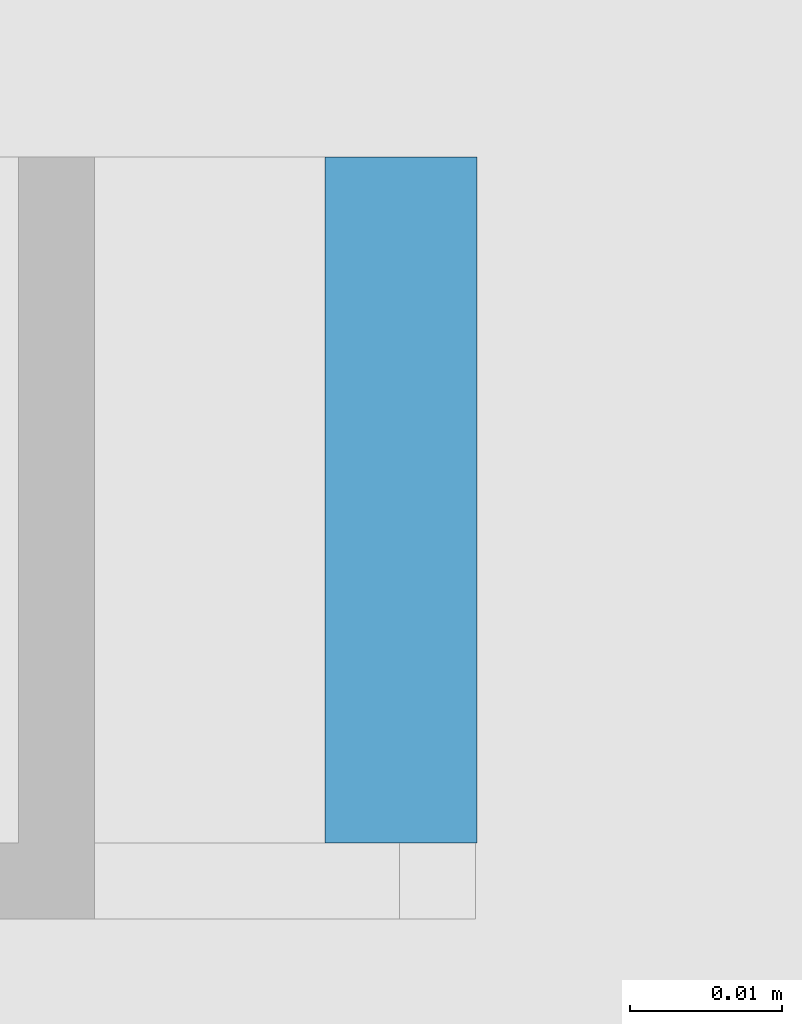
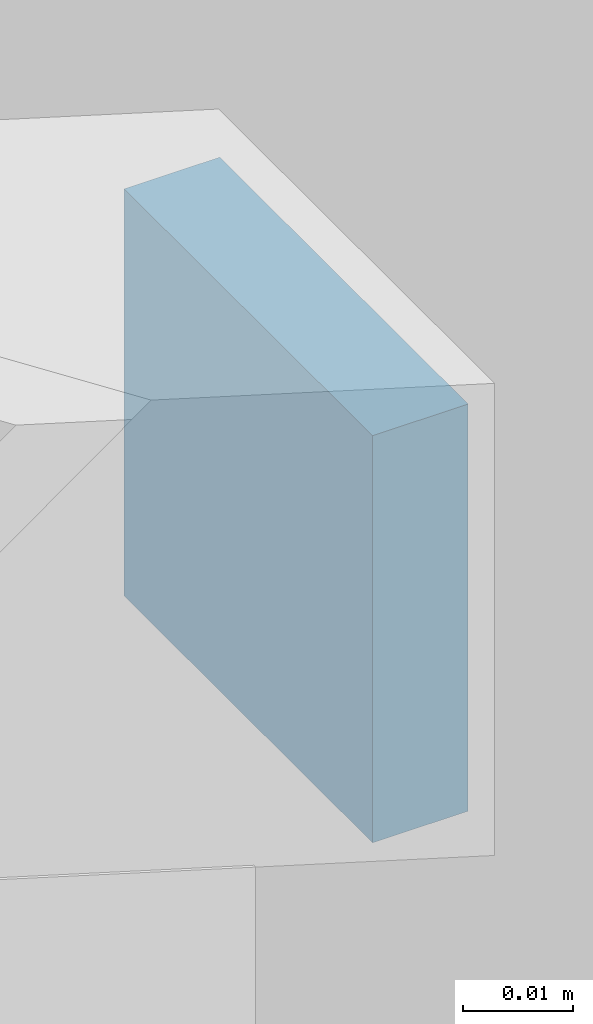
# One storey, part 65 of 65: 1 beam.
"""IFC2X3 building model written with IfcOpenShell, lengths in millimetres."""

import ifcopenshell
import ifcopenshell.guid

model = None  # the IFC model being written
_history = None  # IfcOwnerHistory: only IFC2X3 demands one
_inside = {}  # id of a spatial element -> (the spatial element, [elements in it])
_under = {}  # id of a project, library or spatial element -> (it, [spatial elements below it])
_declared = {}  # id of a project -> (the project, [libraries it declares])
_typed = {}  # id of a type object -> (the type object, [elements of that type])
_made_of = {}  # id of a material, layer set ... -> (it, [elements and type objects made of it])


def new_model(schema):
    """Start an empty IFC model of exactly this schema.

    Asked for "IFC4X3", IfcOpenShell would pick the latest addendum, in which some entities
    have other attributes; the version numbers below select the first issue.
    IFC2X3 requires an IfcOwnerHistory on every rooted entity: one is made here for all.
    """
    global model, _history
    if schema == "IFC4X3":
        model = ifcopenshell.file(schema_version=(4, 3, 0, 0))
    else:
        model = ifcopenshell.file(schema=schema)
    _inside.clear()
    _under.clear()
    _declared.clear()
    _typed.clear()
    _made_of.clear()
    _history = None
    if model.schema == "IFC2X3":
        org = make("IfcOrganization", Name="unknown")
        user = make(
            "IfcPersonAndOrganization",
            ThePerson=make("IfcPerson", FamilyName="unknown"),
            TheOrganization=org,
        )
        app = make(
            "IfcApplication",
            ApplicationDeveloper=org,
            Version="unknown",
            ApplicationFullName="unknown",
            ApplicationIdentifier="unknown",
        )
        _history = make(
            "IfcOwnerHistory",
            OwningUser=user,
            OwningApplication=app,
            ChangeAction="ADDED",
            CreationDate=0,
        )
    return model


def make(cls, **values):
    """One entity of the class cls with the attributes given. An attribute that is None is left unset."""
    return model.create_entity(
        cls, **{name: value for name, value in values.items() if value is not None}
    )


def rooted(cls, **values):
    """An entity with a GlobalId (a new one), such as an element, a storey or a relation."""
    return make(cls, GlobalId=ifcopenshell.guid.new(), OwnerHistory=_history, **values)


def si_unit(unit_type, name, prefix=None):
    """IfcSIUnit, for example si_unit("LENGTHUNIT", "METRE", prefix="MILLI")."""
    return make("IfcSIUnit", UnitType=unit_type, Prefix=prefix, Name=name)


def assignment(units):
    """IfcUnitAssignment: the units of a project."""
    return None if units is None else make("IfcUnitAssignment", Units=units)


def point(xyz):
    """IfcCartesianPoint."""
    return None if xyz is None else make("IfcCartesianPoint", Coordinates=xyz)


def direction(xyz):
    """IfcDirection."""
    return None if xyz is None else make("IfcDirection", DirectionRatios=xyz)


def frame(location, z_axis=None, x_axis=None):
    """IfcAxis2Placement3D, a coordinate frame: its origin and axes. An axis left out is left unset."""
    return make(
        "IfcAxis2Placement3D",
        Location=point(location),
        Axis=direction(z_axis),
        RefDirection=direction(x_axis),
    )


def origin_with_axes():
    """The frame at (0, 0, 0) with the z axis (0, 0, 1) and the x axis (1, 0, 0) written out."""
    return frame((0.0, 0.0, 0.0), z_axis=(0.0, 0.0, 1.0), x_axis=(1.0, 0.0, 0.0))


def place(relative_to, where):
    """IfcLocalPlacement: puts the frame where relative to a parent placement (None: the world)."""
    return make(
        "IfcLocalPlacement", PlacementRelTo=relative_to, RelativePlacement=where
    )


def context(
    kind, dimensions, precision=None, world=None, true_north=None, identifier=None
):
    """IfcGeometricRepresentationContext, for example the 3D "Model" context."""
    return make(
        "IfcGeometricRepresentationContext",
        ContextIdentifier=identifier,
        ContextType=kind,
        CoordinateSpaceDimension=dimensions,
        Precision=precision,
        WorldCoordinateSystem=world,
        TrueNorth=true_north,
    )


def subcontext(parent, identifier, kind, view, scale=None):
    """IfcGeometricRepresentationSubContext, for example "Body" below "Model"."""
    return make(
        "IfcGeometricRepresentationSubContext",
        ContextIdentifier=identifier,
        ContextType=kind,
        ParentContext=parent,
        TargetScale=scale,
        TargetView=view,
    )


def project(units=None, contexts=None):
    """IfcProject with its units and contexts."""
    return rooted(
        "IfcProject",
        Name="project",
        RepresentationContexts=contexts,
        UnitsInContext=assignment(units),
    )


def spatial(cls, under=None, at=None, **own):
    """A site, building, storey or space (cls), placed at a placement, below another one or the project."""
    s = rooted(cls, ObjectPlacement=at, **own)
    if under is not None:
        _under.setdefault(under.id(), (under, []))[1].append(s)
    return s


def faces_of(points, faces, orient=None, outer=None):
    """IfcFace entities. A face is a list of loops; a loop is a list of indices into points, from 0.

    orient and outer hold one flag for each loop. By default every Orientation is true, the
    first loop of a face is its IfcFaceOuterBound and the others are IfcFaceBound.
    """
    made = []
    for i, loops in enumerate(faces):
        bounds = []
        for j, loop in enumerate(loops):
            is_outer = j == 0 if outer is None else outer[i][j]
            bounds.append(
                make(
                    "IfcFaceOuterBound" if is_outer else "IfcFaceBound",
                    Bound=make("IfcPolyLoop", Polygon=[points[k] for k in loop]),
                    Orientation=True if orient is None else orient[i][j],
                )
            )
        made.append(make("IfcFace", Bounds=bounds))
    return made


def faceted_brep(points, faces, orient=None, outer=None, voids=None):
    """IfcFacetedBrep: a solid bounded by flat faces; with voids (closed shells), ...WithVoids."""
    shared = [point(p) for p in points]
    hull = make("IfcClosedShell", CfsFaces=faces_of(shared, faces, orient, outer))
    if voids is None:
        return make("IfcFacetedBrep", Outer=hull)
    return make(
        "IfcFacetedBrepWithVoids",
        Outer=hull,
        Voids=[
            make(cls, CfsFaces=faces_of(shared, fs, o, b)) for cls, fs, o, b in voids
        ],
    )


def shape(context_of_items, identifier, shape_type, items):
    """IfcShapeRepresentation: the items that make up one representation, for example the "Body"."""
    return make(
        "IfcShapeRepresentation",
        ContextOfItems=context_of_items,
        RepresentationIdentifier=identifier,
        RepresentationType=shape_type,
        Items=items,
    )


def material(Name=None, Category=None):
    """IfcMaterial."""
    return make("IfcMaterial", Name=Name, Category=Category)


def made_of(thing, what):
    """Note that an element or type object is made of a material, layer set ...; save() writes the relation."""
    if what is not None:
        _made_of.setdefault(what.id(), (what, []))[1].append(thing)
    return thing


def type_object(cls, material=None, **own):
    """A type object (cls), such as IfcWallType, which elements share."""
    return made_of(rooted(cls, **own), material)


def element(
    cls,
    number,
    at=None,
    inside=None,
    cuts=None,
    type_object=None,
    material=None,
    context=None,
    identifier="Body",
    shape_type=None,
    held_by="IfcProductDefinitionShape",
    body=None,
    shapes=None,
    **own,
):
    """One element of the class cls, such as IfcWall. Its Tag is "e" and its number.

    at: its placement. inside: the storey or other place that contains it. cuts: it is an
    opening in that element (IfcRelVoidsElement). A single representation is given by context,
    identifier, shape_type and body (its items); several are given by shapes. held_by: the class
    of the entity that holds the representations. save() writes the other relations.
    """
    e = rooted(cls, Tag="e%d" % number, ObjectPlacement=at, **own)
    if body is not None:
        shapes = [shape(context, identifier, shape_type, body)]
    if shapes is not None:
        e.Representation = make(held_by, Representations=shapes)
    if inside is not None:
        _inside.setdefault(inside.id(), (inside, []))[1].append(e)
    if cuts is not None:
        rooted(
            "IfcRelVoidsElement", RelatingBuildingElement=cuts, RelatedOpeningElement=e
        )
    if type_object is not None:
        _typed.setdefault(type_object.id(), (type_object, []))[1].append(e)
    return made_of(e, material)


def aggregate(whole, parts):
    """IfcRelAggregates: a whole, such as a stair, and the parts it consists of."""
    return rooted("IfcRelAggregates", RelatingObject=whole, RelatedObjects=parts)


def save(model, path):
    """Write the relations noted so far, then the file.

    IfcRelAggregates (storeys below a building ...), IfcRelContainedInSpatialStructure (elements
    in a storey), IfcRelDefinesByType, IfcRelAssociatesMaterial and IfcRelDeclares: one each for
    every whole, place, type object, material and project.
    """
    for whole, parts in _under.values():
        aggregate(whole, parts)
    for where, things in _inside.values():
        rooted(
            "IfcRelContainedInSpatialStructure",
            RelatedElements=things,
            RelatingStructure=where,
        )
    for kind, things in _typed.values():
        rooted("IfcRelDefinesByType", RelatedObjects=things, RelatingType=kind)
    for what, things in _made_of.values():
        rooted("IfcRelAssociatesMaterial", RelatedObjects=things, RelatingMaterial=what)
    for by, libraries in _declared.values():
        rooted("IfcRelDeclares", RelatingContext=by, RelatedDefinitions=libraries)
    model.write(path)


model = new_model("IFC2X3")

# Units and contexts
model_context = context("Model", 3, precision=1e-05, world=origin_with_axes())
body_context = subcontext(model_context, "Body", "Model", "MODEL_VIEW")
ifc_project = project(units=[si_unit("LENGTHUNIT", "METRE", prefix="MILLI"), si_unit("AREAUNIT", "SQUARE_METRE"), si_unit("VOLUMEUNIT", "CUBIC_METRE"), si_unit("MASSUNIT", "GRAM", prefix="KILO"), si_unit("TIMEUNIT", "SECOND"), si_unit("PLANEANGLEUNIT", "RADIAN"), si_unit("SOLIDANGLEUNIT", "STERADIAN"), si_unit("THERMODYNAMICTEMPERATUREUNIT", "DEGREE_CELSIUS"), si_unit("LUMINOUSINTENSITYUNIT", "LUMEN")], contexts=[model_context])

# Site, building, storey
site_placement = place(None, origin_with_axes())
site = spatial("IfcSite", under=ifc_project, at=site_placement, Name="Undefined", CompositionType="ELEMENT")
building_placement = place(site_placement, origin_with_axes())
building = spatial("IfcBuilding", under=site, at=building_placement, Name="Undefined", CompositionType="ELEMENT")
storey_placement = place(building_placement, origin_with_axes())
storey = spatial("IfcBuildingStorey", under=building, at=storey_placement, Name="Undefined", CompositionType="ELEMENT", Elevation=0.0)

# Beam
ifc_material = material(Name="STEEL/S235JR")
beam_type = type_object("IfcBeamType", Name="PL45*10", PredefinedType="NOTDEFINED")
beam_placement = place(storey_placement, frame((19912.6101777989, 24519.9900000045, 3797.29636618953), z_axis=(0.0, 0.0, 1.0), x_axis=(0.0, 1.0, 0.0)))
element("IfcBeam", 1, at=beam_placement, inside=storey, type_object=beam_type, material=ifc_material, Name="BEAM", ObjectType="PL45*10", context=body_context, shape_type="Brep", body=[
    faceted_brep([(0.0, 5.0, -22.5), (0.0, 5.0, 22.5), (45.0, 5.0, 22.5), (45.0, 5.0, -22.5), (0.0, -5.0, 22.5), (45.0, -5.0, 22.5), (0.0, -5.0, -22.5000000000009), (45.0, -5.0, -22.5000000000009)], [[[0, 1, 2, 3]], [[1, 4, 5, 2]], [[4, 6, 7, 5]], [[6, 0, 3, 7]], [[5, 7, 3, 2]], [[6, 4, 1, 0]]]),
])

save(model, "model.ifc")
